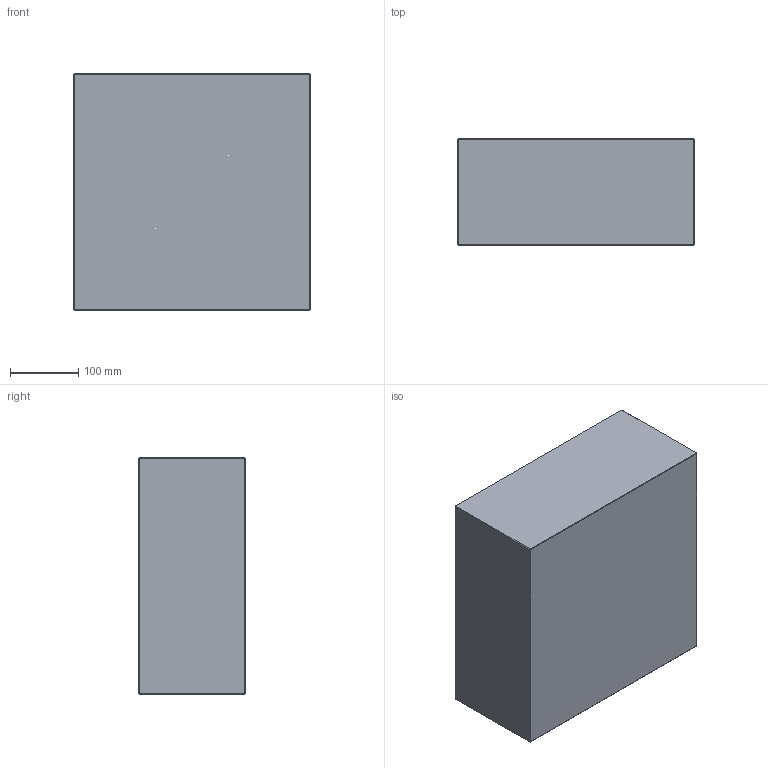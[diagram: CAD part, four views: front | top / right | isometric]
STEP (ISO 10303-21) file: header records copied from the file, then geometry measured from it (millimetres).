
FILE_DESCRIPTION (( 'STEP AP214' ), '1' );
FILE_NAME ('PC-P-346x346x156.STEP', '2020-04-01T10:03:50', ( 'August' ), ( '' ), 'SwSTEP 2.0', 'SolidWorks 2018', '' );
FILE_SCHEMA (( 'AUTOMOTIVE_DESIGN' ));
Length unit declared in the file: millimetre
Products named in the file (1): PC-P-346x346x156
Bounding box: 346 x 156 x 346 mm (x, y, z)
Volume: 18674005.3 mm3; surface area: 453346 mm2
Topology: 1 solids, 1 shells, 26 faces, 48 edges, 24 vertices
Faces by surface type: plane 26
Entity records: 634 total; most frequent: DIRECTION 102, CARTESIAN_POINT 99, ORIENTED_EDGE 96, EDGE_CURVE 48, LINE 48, VECTOR 48, AXIS2_PLACEMENT_3D 27, PLANE 26
